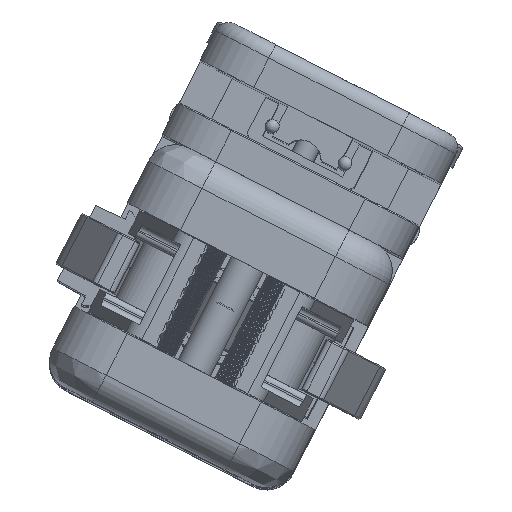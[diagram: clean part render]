
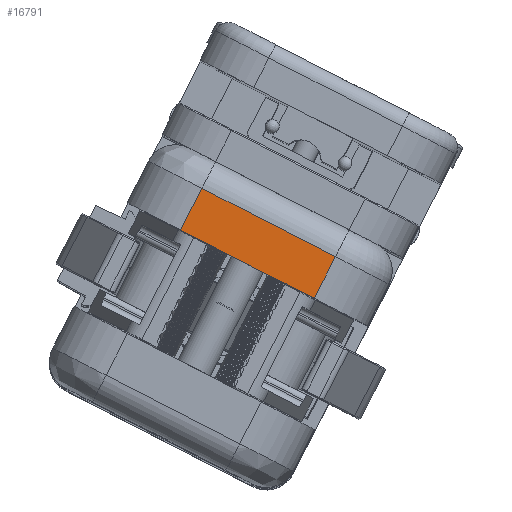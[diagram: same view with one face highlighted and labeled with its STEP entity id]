
A CAD part, top view. The second image highlights one B-rep face of the part: STEP entity #16791.
In plain terms, the highlighted planar face has unit normal (0, 0, 1).
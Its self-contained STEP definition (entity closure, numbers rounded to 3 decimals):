
#776=LINE('',#45056,#2720);
#785=LINE('',#45097,#2729);
#787=LINE('',#45100,#2731);
#788=LINE('',#45102,#2732);
#2720=VECTOR('',#38026,1.);
#2729=VECTOR('',#38071,1.);
#2731=VECTOR('',#38075,1.);
#2732=VECTOR('',#38076,1.);
#14807=PLANE('',#34211);
#15707=FACE_OUTER_BOUND('',#19795,.T.);
#16791=ADVANCED_FACE('',(#15707),#14807,.F.);
#19795=EDGE_LOOP('',(#22987,#22988,#22989,#22990));
#22987=ORIENTED_EDGE('',*,*,#30416,.F.);
#22988=ORIENTED_EDGE('',*,*,#30393,.T.);
#22989=ORIENTED_EDGE('',*,*,#30414,.F.);
#22990=ORIENTED_EDGE('',*,*,#30417,.F.);
#28016=VERTEX_POINT('',#45055);
#28017=VERTEX_POINT('',#45057);
#28029=VERTEX_POINT('',#45095);
#28031=VERTEX_POINT('',#45101);
#30393=EDGE_CURVE('',#28017,#28016,#776,.T.);
#30414=EDGE_CURVE('',#28029,#28016,#785,.T.);
#30416=EDGE_CURVE('',#28017,#28031,#787,.T.);
#30417=EDGE_CURVE('',#28031,#28029,#788,.T.);
#34211=AXIS2_PLACEMENT_3D('',#45103,#38077,#38078);
#38026=DIRECTION('',(0.89,-0.456,0.));
#38071=DIRECTION('',(-0.456,-0.89,0.));
#38075=DIRECTION('',(0.456,0.89,0.));
#38076=DIRECTION('',(0.89,-0.456,0.));
#38077=DIRECTION('',(0.,0.,-1.));
#38078=DIRECTION('',(0.89,-0.456,0.));
#45055=CARTESIAN_POINT('',(15.547,2.936,349.));
#45056=CARTESIAN_POINT('',(4.421,8.634,349.));
#45057=CARTESIAN_POINT('',(-6.704,14.331,349.));
#45095=CARTESIAN_POINT('',(19.103,9.878,349.));
#45097=CARTESIAN_POINT('',(21.382,14.329,349.));
#45100=CARTESIAN_POINT('',(-0.87,25.724,349.));
#45101=CARTESIAN_POINT('',(-3.149,21.274,349.));
#45102=CARTESIAN_POINT('',(7.977,15.576,349.));
#45103=CARTESIAN_POINT('',(30.283,9.771,349.));
